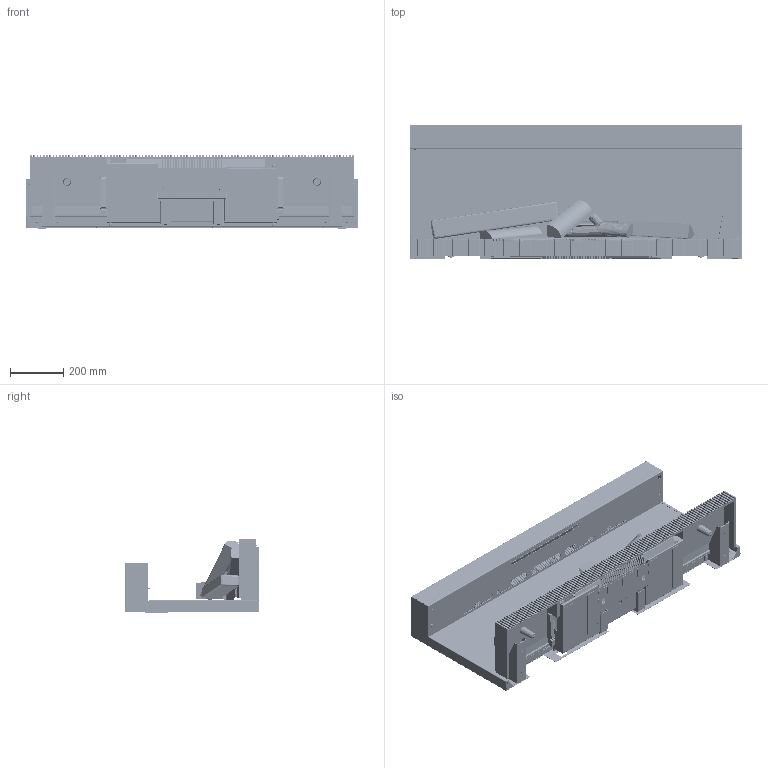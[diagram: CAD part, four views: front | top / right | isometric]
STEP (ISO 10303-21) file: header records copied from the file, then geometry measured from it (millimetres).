
FILE_DESCRIPTION (( 'STEP AP203' ), '1' );
FILE_NAME ('E Series E55.STEP', '2024-03-12T08:17:21', ( '' ), ( '' ), 'SwSTEP 2.0', 'SolidWorks 2020', '' );
FILE_SCHEMA (( 'CONFIG_CONTROL_DESIGN' ));
Length unit declared in the file: millimetre
Products named in the file (75): KF05861; KF05914; KF05850_Inschijner; KF04021; KF06607; KF05910; KF06555; KF05852; KF05846; KF05912; KF06717_Right - Bend; KF06057; KF04079; KF06370; KF04164; KF06611; KF05961; KF06605; KF06459; KF04074; KF06717_Left - Bend ; KF05904; KF05976; KF06550; KF05962_Hand set bends; KF06683_Built in; KF06369; KF06110; KF06603; KF05919; KF06573; KF06109; KF06124; KF06362; KF06679; KF04003; KF06215; KF06545; KF05853; KF06608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
Assembly tree (202 placements, depth 7):
  E Series E55
    KF05834_KALFIRE E55 
      KF05850_Inschijner
        KF05976
        KF06110
          KF05853
          KF06109
        KF06111
          KF05852
          KF06109
        KF06679  x2
      KF05836
      KF06215
        KF06362
          KF05846  x2
            KF05847
            KF06057
            KF04020
            KF06545
          KF05912
            KF05904
            KF04020  x9
          KF05903
          KF05919
            KF05902
            KF04020  x3
            KF04060  x4
          KF05910
            KF05901
            KF04079  x2
            KF04020  x3
          KF05909
            KF05900
            KF04079  x2
            KF04020  x3
          KF05917_Built in
            KF05848_Built in 
            KF04020  x2
            KF04003  x4
          KF06368
            KF06364
          KF06370
            KF06369
            KF04020
          KF06125
          KF06124
          KF06460  x2
          KF06681
            KF06683_Built in
            KF06684_Built in
            KF06717_Left - Bend 
            KF06717_Right - Bend
        KF06459
          KF06550
            KF06083_Built in version
              KF05962_Hand set bends
              KF04020  x2
            KF05964
              KF05961
              KF04221  x10
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Bounding box: 1250 x 506 x 277.5 mm (x, y, z)
Volume: 13753448.4 mm3; surface area: 7102403.4 mm2
Topology: 185 solids, 234 shells, 12291 faces, 30965 edges, 19379 vertices
Faces by surface type: plane 7298, cylinder 3258, cone 1285, bspline 233, torus 151, sphere 66
Entity records: 270471 total; most frequent: CARTESIAN_POINT 65383, ORIENTED_EDGE 40464, DIRECTION 40090, EDGE_CURVE 20232, LINE 14356, VECTOR 14356, AXIS2_PLACEMENT_3D 12867, VERTEX_POINT 12607
